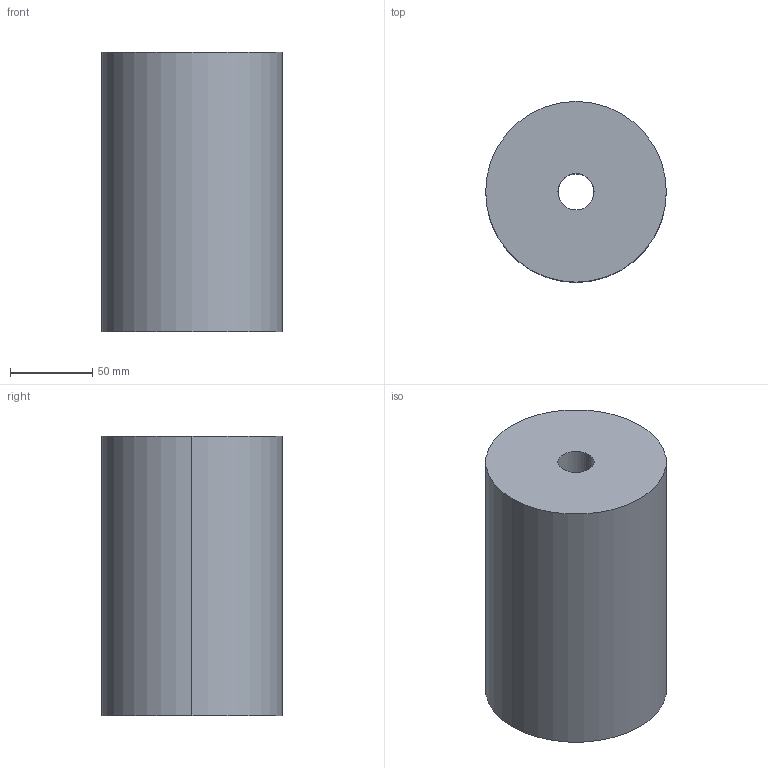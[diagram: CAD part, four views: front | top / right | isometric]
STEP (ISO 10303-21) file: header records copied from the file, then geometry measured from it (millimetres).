
FILE_DESCRIPTION(/* description */ (''),/* implementation_level */ '2;1');
FILE_NAME(/* name */ '3d_e110-170_03725_r00.stp',/* time_stamp */ '2011-01-10T14:15:49+09:00',/* author */ ('MISUMI'),/* organization */ (''),/* preprocessor_version */ 'ST-DEVELOPER v11',/* originating_system */ 'UGS - NX 5.0',/* authorisation */ '');
FILE_SCHEMA (('CONFIG_CONTROL_DESIGN'));
Length unit declared in the file: millimetre
Products named in the file (1): 3d_e110-170_03725_r00
Bounding box: 110 x 110 x 170 mm (x, y, z)
Volume: 1550941.5 mm3; surface area: 88743.7 mm2
Topology: 1 solids, 1 shells, 6 faces, 12 edges, 8 vertices
Faces by surface type: cylinder 4, plane 2
Entity records: 254 total; most frequent: DIRECTION 34, CARTESIAN_POINT 27, ORIENTED_EDGE 24, AXIS2_PLACEMENT_3D 15, EDGE_CURVE 12, EDGE_LOOP 8, VERTEX_POINT 8, CIRCLE 8
